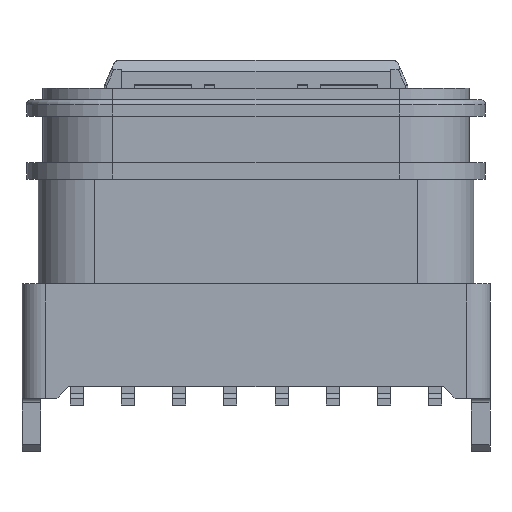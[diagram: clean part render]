
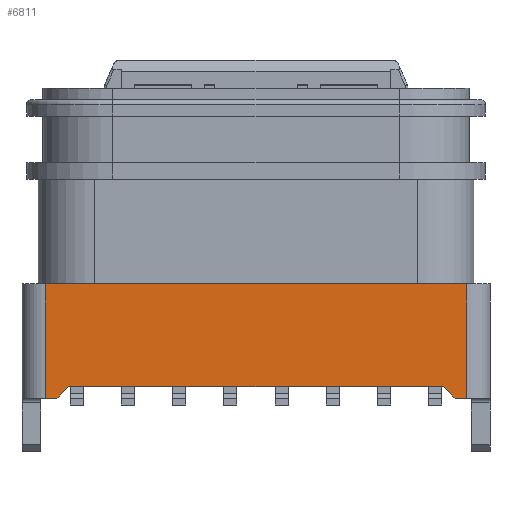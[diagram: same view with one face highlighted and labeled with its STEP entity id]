
A CAD part, front view. The second image highlights one B-rep face of the part: STEP entity #6811.
In plain terms, the highlighted planar face has unit normal (0, -1, 0).
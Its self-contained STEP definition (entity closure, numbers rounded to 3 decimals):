
#1=DIRECTION('',(-0.707,0.,0.707));
#2=VECTOR('',#1,0.354);
#3=CARTESIAN_POINT('',(4.27,-1.977,-2.9));
#4=LINE('',#3,#2);
#5=DIRECTION('',(-0.707,0.,-0.707));
#6=VECTOR('',#5,0.354);
#7=CARTESIAN_POINT('',(-4.02,-1.977,-2.65));
#8=LINE('',#7,#6);
#9=DIRECTION('',(1.,0.,0.));
#10=VECTOR('',#9,9.04);
#11=CARTESIAN_POINT('',(-4.52,-1.977,-0.45));
#12=LINE('',#11,#10);
#17=DIRECTION('',(0.,0.,1.));
#18=VECTOR('',#17,2.45);
#19=CARTESIAN_POINT('',(4.52,-1.977,-2.9));
#20=LINE('',#19,#18);
#153=DIRECTION('',(0.,0.,-1.));
#154=VECTOR('',#153,2.45);
#155=CARTESIAN_POINT('',(-4.52,-1.977,-0.45));
#156=LINE('',#155,#154);
#166=DIRECTION('',(1.,0.,0.));
#167=VECTOR('',#166,0.25);
#168=CARTESIAN_POINT('',(-4.52,-1.977,-2.9));
#169=LINE('',#168,#167);
#187=DIRECTION('',(1.,0.,0.));
#188=VECTOR('',#187,8.04);
#189=CARTESIAN_POINT('',(-4.02,-1.977,-2.65));
#190=LINE('',#189,#188);
#217=DIRECTION('',(1.,0.,0.));
#218=VECTOR('',#217,0.25);
#219=CARTESIAN_POINT('',(4.27,-1.977,-2.9));
#220=LINE('',#219,#218);
#5866=CARTESIAN_POINT('',(4.52,-1.977,-0.45));
#5867=VERTEX_POINT('',#5866);
#5868=CARTESIAN_POINT('',(-4.52,-1.977,-0.45));
#5869=VERTEX_POINT('',#5868);
#5942=CARTESIAN_POINT('',(-4.52,-1.977,-2.9));
#5943=VERTEX_POINT('',#5942);
#5944=CARTESIAN_POINT('',(4.52,-1.977,-2.9));
#5945=VERTEX_POINT('',#5944);
#5946=CARTESIAN_POINT('',(4.27,-1.977,-2.9));
#5947=VERTEX_POINT('',#5946);
#5948=CARTESIAN_POINT('',(4.02,-1.977,-2.65));
#5949=VERTEX_POINT('',#5948);
#5950=CARTESIAN_POINT('',(-4.02,-1.977,-2.65));
#5951=VERTEX_POINT('',#5950);
#5952=CARTESIAN_POINT('',(-4.27,-1.977,-2.9));
#5953=VERTEX_POINT('',#5952);
#6788=CARTESIAN_POINT('',(-2.65,-1.977,-1.2));
#6789=DIRECTION('',(0.,1.,0.));
#6790=DIRECTION('',(1.,0.,0.));
#6791=AXIS2_PLACEMENT_3D('',#6788,#6789,#6790);
#6792=PLANE('',#6791);
#6794=ORIENTED_EDGE('',*,*,#6793,.F.);
#6796=ORIENTED_EDGE('',*,*,#6795,.F.);
#6798=ORIENTED_EDGE('',*,*,#6797,.T.);
#6800=ORIENTED_EDGE('',*,*,#6799,.F.);
#6802=ORIENTED_EDGE('',*,*,#6801,.T.);
#6804=ORIENTED_EDGE('',*,*,#6803,.F.);
#6806=ORIENTED_EDGE('',*,*,#6805,.F.);
#6808=ORIENTED_EDGE('',*,*,#6807,.T.);
#6809=EDGE_LOOP('',(#6794,#6796,#6798,#6800,#6802,#6804,#6806,#6808));
#6810=FACE_OUTER_BOUND('',#6809,.F.);
#6811=ADVANCED_FACE('',(#6810),#6792,.F.);
#6793=EDGE_CURVE('',#5945,#5867,#20,.T.);
#6795=EDGE_CURVE('',#5947,#5945,#220,.T.);
#6797=EDGE_CURVE('',#5947,#5949,#4,.T.);
#6799=EDGE_CURVE('',#5951,#5949,#190,.T.);
#6801=EDGE_CURVE('',#5951,#5953,#8,.T.);
#6803=EDGE_CURVE('',#5943,#5953,#169,.T.);
#6805=EDGE_CURVE('',#5869,#5943,#156,.T.);
#6807=EDGE_CURVE('',#5869,#5867,#12,.T.);
